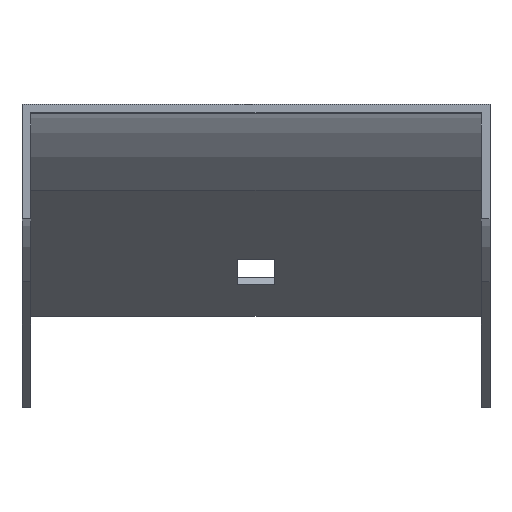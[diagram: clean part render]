
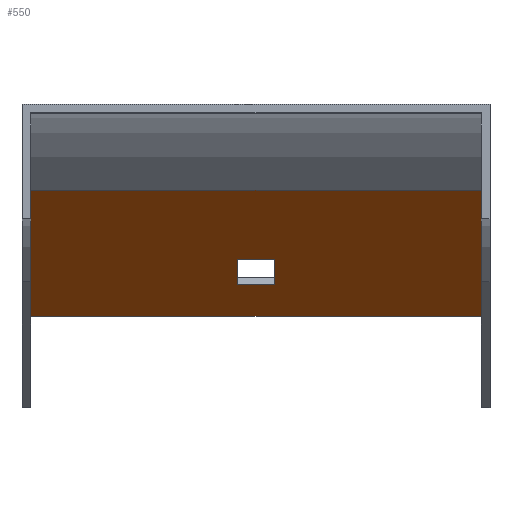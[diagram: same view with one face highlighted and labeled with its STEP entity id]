
A CAD part, top view. The second image highlights one B-rep face of the part: STEP entity #550.
In plain terms, the highlighted planar face has unit normal (0, -0.866, 0.5).
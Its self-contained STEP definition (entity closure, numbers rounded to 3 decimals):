
#15 = LINE ( 'NONE', #543, #392 ) ;
#21 = DIRECTION ( 'NONE',  ( 0., -0.5, -0.866 ) ) ;
#32 = VECTOR ( 'NONE', #515, 1000. ) ;
#33 = FACE_OUTER_BOUND ( 'NONE', #452, .T. ) ;
#53 = CARTESIAN_POINT ( 'NONE',  ( 39.5, -14.897, -94. ) ) ;
#74 = VECTOR ( 'NONE', #21, 1000. ) ;
#76 = CARTESIAN_POINT ( 'NONE',  ( -3.25, -14.897, -94. ) ) ;
#85 = EDGE_CURVE ( 'NONE', #545, #93, #277, .T. ) ;
#92 = CARTESIAN_POINT ( 'NONE',  ( 41., -14.897, -94. ) ) ;
#93 = VERTEX_POINT ( 'NONE', #811 ) ;
#109 = DIRECTION ( 'NONE',  ( 0., 0.5, 0.866 ) ) ;
#110 = EDGE_CURVE ( 'NONE', #363, #284, #406, .T. ) ;
#121 = CARTESIAN_POINT ( 'NONE',  ( 3.25, -26.897, -114.785 ) ) ;
#129 = VECTOR ( 'NONE', #538, 1000. ) ;
#137 = EDGE_CURVE ( 'NONE', #255, #269, #750, .T. ) ;
#146 = DIRECTION ( 'NONE',  ( 1., 0., 0. ) ) ;
#186 = ORIENTED_EDGE ( 'NONE', *, *, #834, .F. ) ;
#197 = VECTOR ( 'NONE', #330, 1000. ) ;
#225 = PLANE ( 'NONE',  #623 ) ;
#228 = DIRECTION ( 'NONE',  ( 0., -0.5, -0.866 ) ) ;
#255 = VERTEX_POINT ( 'NONE', #53 ) ;
#257 = DIRECTION ( 'NONE',  ( -1., 0., 0. ) ) ;
#267 = VECTOR ( 'NONE', #109, 1000. ) ;
#269 = VERTEX_POINT ( 'NONE', #716 ) ;
#274 = CARTESIAN_POINT ( 'NONE',  ( 41., -31.397, -122.579 ) ) ;
#277 = LINE ( 'NONE', #76, #129 ) ;
#281 = DIRECTION ( 'NONE',  ( -1., 0., 0. ) ) ;
#283 = DIRECTION ( 'NONE',  ( 0., -0.866, 0.5 ) ) ;
#284 = VERTEX_POINT ( 'NONE', #858 ) ;
#296 = CARTESIAN_POINT ( 'NONE',  ( -39.5, -14.897, -94. ) ) ;
#302 = ORIENTED_EDGE ( 'NONE', *, *, #436, .T. ) ;
#330 = DIRECTION ( 'NONE',  ( 0., 0.5, 0.866 ) ) ;
#331 = LINE ( 'NONE', #529, #197 ) ;
#338 = CARTESIAN_POINT ( 'NONE',  ( 3.25, -14.897, -94. ) ) ;
#363 = VERTEX_POINT ( 'NONE', #121 ) ;
#383 = CARTESIAN_POINT ( 'NONE',  ( 41., -36.897, -132.105 ) ) ;
#392 = VECTOR ( 'NONE', #146, 1000. ) ;
#406 = LINE ( 'NONE', #338, #74 ) ;
#431 = LINE ( 'NONE', #296, #267 ) ;
#436 = EDGE_CURVE ( 'NONE', #593, #255, #331, .T. ) ;
#448 = EDGE_CURVE ( 'NONE', #93, #363, #15, .T. ) ;
#452 = EDGE_LOOP ( 'NONE', ( #186, #635, #302, #582 ) ) ;
#456 = VECTOR ( 'NONE', #281, 1000. ) ;
#504 = LINE ( 'NONE', #383, #32 ) ;
#515 = DIRECTION ( 'NONE',  ( -1., 0., 0. ) ) ;
#529 = CARTESIAN_POINT ( 'NONE',  ( 39.5, -14.897, -94. ) ) ;
#538 = DIRECTION ( 'NONE',  ( 0., 0.5, 0.866 ) ) ;
#543 = CARTESIAN_POINT ( 'NONE',  ( 41., -26.897, -114.785 ) ) ;
#545 = VERTEX_POINT ( 'NONE', #687 ) ;
#550 = ADVANCED_FACE ( 'NONE', ( #33, #626 ), #225, .T. ) ;
#582 = ORIENTED_EDGE ( 'NONE', *, *, #137, .T. ) ;
#593 = VERTEX_POINT ( 'NONE', #721 ) ;
#608 = CARTESIAN_POINT ( 'NONE',  ( 41., -14.897, -94. ) ) ;
#611 = ORIENTED_EDGE ( 'NONE', *, *, #85, .T. ) ;
#612 = LINE ( 'NONE', #274, #821 ) ;
#623 = AXIS2_PLACEMENT_3D ( 'NONE', #92, #283, #228 ) ;
#626 = FACE_BOUND ( 'NONE', #849, .T. ) ;
#635 = ORIENTED_EDGE ( 'NONE', *, *, #860, .F. ) ;
#636 = CARTESIAN_POINT ( 'NONE',  ( -39.5, -36.897, -132.105 ) ) ;
#687 = CARTESIAN_POINT ( 'NONE',  ( -3.25, -31.397, -122.579 ) ) ;
#705 = ORIENTED_EDGE ( 'NONE', *, *, #110, .T. ) ;
#706 = ORIENTED_EDGE ( 'NONE', *, *, #760, .T. ) ;
#716 = CARTESIAN_POINT ( 'NONE',  ( -39.5, -14.897, -94. ) ) ;
#721 = CARTESIAN_POINT ( 'NONE',  ( 39.5, -36.897, -132.105 ) ) ;
#740 = ORIENTED_EDGE ( 'NONE', *, *, #448, .T. ) ;
#750 = LINE ( 'NONE', #608, #456 ) ;
#760 = EDGE_CURVE ( 'NONE', #284, #545, #612, .T. ) ;
#797 = VERTEX_POINT ( 'NONE', #636 ) ;
#811 = CARTESIAN_POINT ( 'NONE',  ( -3.25, -26.897, -114.785 ) ) ;
#821 = VECTOR ( 'NONE', #257, 1000. ) ;
#834 = EDGE_CURVE ( 'NONE', #797, #269, #431, .T. ) ;
#849 = EDGE_LOOP ( 'NONE', ( #706, #611, #740, #705 ) ) ;
#858 = CARTESIAN_POINT ( 'NONE',  ( 3.25, -31.397, -122.579 ) ) ;
#860 = EDGE_CURVE ( 'NONE', #593, #797, #504, .T. ) ;
